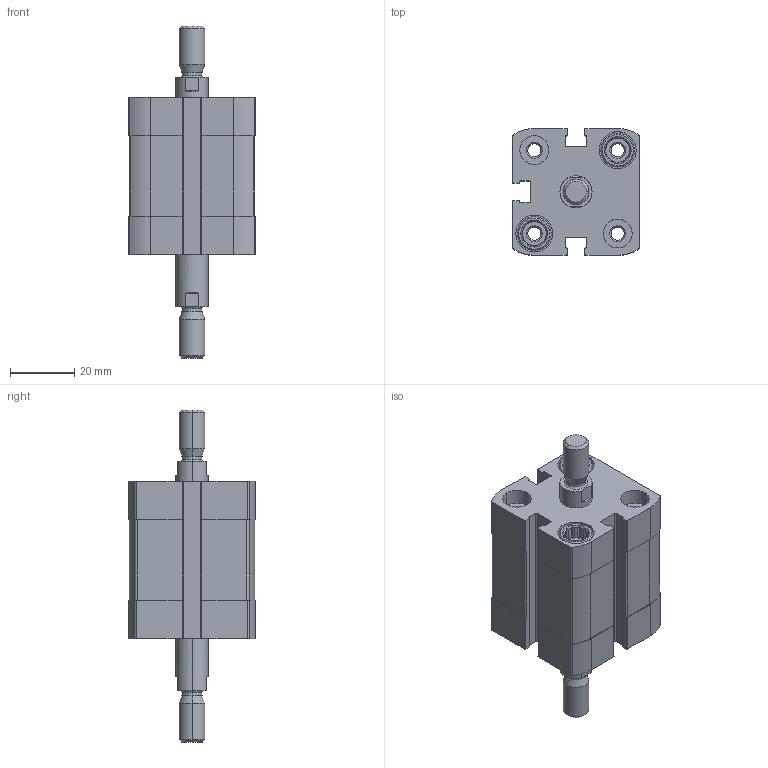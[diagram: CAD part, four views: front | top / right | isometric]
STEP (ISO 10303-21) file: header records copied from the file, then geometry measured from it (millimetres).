
FILE_DESCRIPTION (( 'STEP AP203' ), '1' );
FILE_NAME ('CCN25-10-P.STEP', '2020-06-22T18:42:05', ( '' ), ( '' ), 'SwSTEP 2.0', 'SolidWorks 2019', '' );
FILE_SCHEMA (( 'CONFIG_CONTROL_DESIGN' ));
Length unit declared in the file: millimetre
Products named in the file (1): CCN25-10-P
Bounding box: 39.5 x 39.5 x 103.5 mm (x, y, z)
Volume: 63220.3 mm3; surface area: 24652.1 mm2
Topology: 2 solids, 2 shells, 428 faces, 1122 edges, 730 vertices
Faces by surface type: plane 236, cylinder 140, cone 44, torus 8
Entity records: 13443 total; most frequent: CARTESIAN_POINT 2581, DIRECTION 2318, ORIENTED_EDGE 2244, EDGE_CURVE 1122, AXIS2_PLACEMENT_3D 867, VERTEX_POINT 730, VECTOR 584, LINE 584
